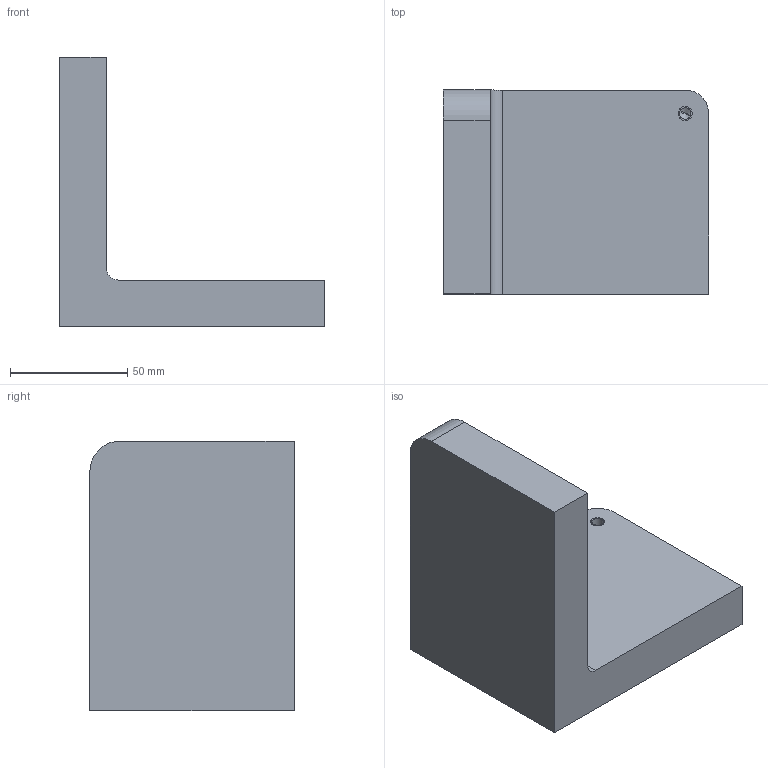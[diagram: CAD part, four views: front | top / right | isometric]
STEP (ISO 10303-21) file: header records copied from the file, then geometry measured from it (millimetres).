
FILE_DESCRIPTION(('CATIA V5 STEP Exchange'),'2;1');
FILE_NAME('C:\_Andres\UNIVERSIDAD\IQS\ASIGNATURAS\DAO\EXF\EXF-16172c\2inicio\Gumá_Abizanda_Ej01_v13.stp','2017-03-05T15:11:06+00:00',('none'),('none'),'CATIA Version 5-6 Release 2014 SP1 HF18','CATIA V5 STEP AP203','none');
FILE_SCHEMA(('CONFIG_CONTROL_DESIGN'));
Length unit declared in the file: millimetre
Products named in the file (1): Gumá_Abizanda_Ej01_v13
Bounding box: 113 x 87 x 115 mm (x, y, z)
Volume: 360919.4 mm3; surface area: 47979.4 mm2
Topology: 1 solids, 2 shells, 17 faces, 43 edges, 27 vertices
Faces by surface type: plane 8, cylinder 7, cone 2
Entity records: 513 total; most frequent: CARTESIAN_POINT 83, ORIENTED_EDGE 78, DIRECTION 69, EDGE_CURVE 41, AXIS2_PLACEMENT_3D 29, VECTOR 27, LINE 27, VERTEX_POINT 27
